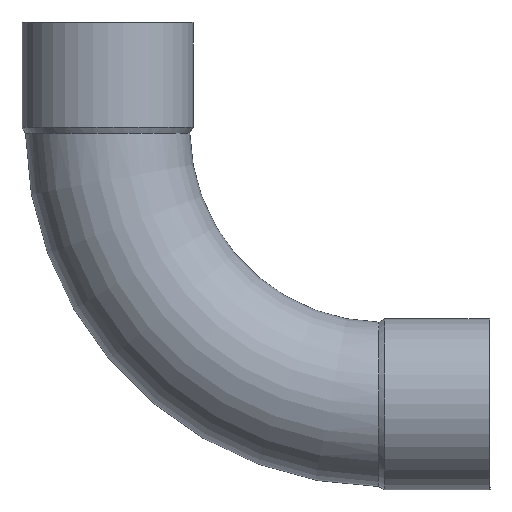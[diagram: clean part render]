
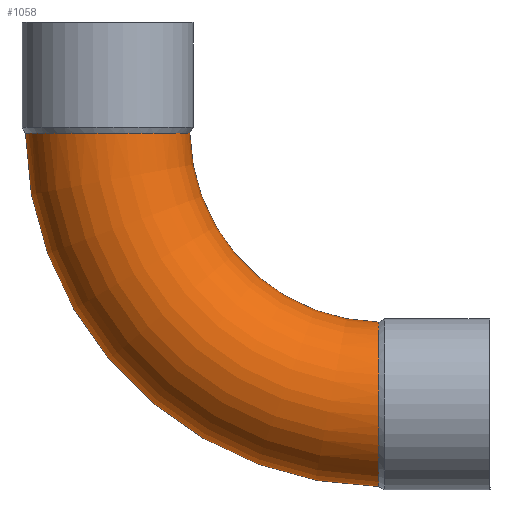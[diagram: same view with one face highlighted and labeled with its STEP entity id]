
A CAD part, front view. The second image highlights one B-rep face of the part: STEP entity #1058.
In plain terms, the highlighted toroidal (fillet/blend) face has major radius 87 mm and minor radius 26 mm.
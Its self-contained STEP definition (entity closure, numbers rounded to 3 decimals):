
#49=CARTESIAN_POINT('',(-90.958,0.,-1.211));
#50=VERTEX_POINT('',#49);
#51=CARTESIAN_POINT('',(20.824,0.,-112.994));
#52=VERTEX_POINT('',#51);
#53=CARTESIAN_POINT('',(22.035,0.,0.0));
#54=DIRECTION('',(0.0,-1.0,0.0));
#55=DIRECTION('',(0.0,0.0,-1.0));
#56=AXIS2_PLACEMENT_3D('',#53,#54,#55);
#57=CIRCLE('',#56,113.);
#58=EDGE_CURVE('',#50,#52,#57,.T.);
#60=CARTESIAN_POINT('',(-38.954,0.,-1.18));
#61=VERTEX_POINT('',#60);
#85=CARTESIAN_POINT('',(20.855,0.,-60.989));
#86=VERTEX_POINT('',#85);
#87=CARTESIAN_POINT('',(22.035,0.,0.0));
#88=DIRECTION('',(0.0,1.0,0.0));
#89=DIRECTION('',(0.0,0.0,-1.0));
#90=AXIS2_PLACEMENT_3D('',#87,#88,#89);
#91=CIRCLE('',#90,61.);
#92=EDGE_CURVE('',#86,#61,#91,.T.);
#224=CARTESIAN_POINT('',(-38.954,0.,-1.18));
#225=CARTESIAN_POINT('',(-38.954,-0.227,-1.18));
#226=CARTESIAN_POINT('',(-38.956,-0.454,-1.18));
#227=CARTESIAN_POINT('',(-39.051,-4.066,-1.18));
#228=CARTESIAN_POINT('',(-39.8,-7.4,-1.181));
#229=CARTESIAN_POINT('',(-42.534,-13.595,-1.184));
#230=CARTESIAN_POINT('',(-44.494,-16.396,-1.186));
#231=CARTESIAN_POINT('',(-49.376,-21.089,-1.19));
#232=CARTESIAN_POINT('',(-52.252,-22.937,-1.192));
#233=CARTESIAN_POINT('',(-58.55,-25.425,-1.196));
#234=CARTESIAN_POINT('',(-61.913,-26.042,-1.198));
#235=CARTESIAN_POINT('',(-68.684,-25.953,-1.202));
#236=CARTESIAN_POINT('',(-72.029,-25.248,-1.204));
#237=CARTESIAN_POINT('',(-78.259,-22.595,-1.206));
#238=CARTESIAN_POINT('',(-81.085,-20.673,-1.208));
#239=CARTESIAN_POINT('',(-85.842,-15.853,-1.209));
#240=CARTESIAN_POINT('',(-87.727,-13.002,-1.21));
#241=CARTESIAN_POINT('',(-90.297,-6.738,-1.211));
#242=CARTESIAN_POINT('',(-90.958,-3.385,-1.211));
#243=CARTESIAN_POINT('',(-90.958,0.,-1.211));
#244=B_SPLINE_CURVE_WITH_KNOTS('',3,(#224,#225,#226,#227,#228,#229,#230,#231,#232,#233,#234,#235,#236,#237,#238,#239,#240,#241,#242,#243),.UNSPECIFIED.,.F.,.U.,(4,2,2,2,2,2,2,2,2,4),(-8.194,-8.126,-7.11,-6.094,-5.079,-4.063,-3.047,-2.031,-1.016,0.0),.UNSPECIFIED.);
#245=EDGE_CURVE('',#61,#50,#244,.T.);
#1025=CARTESIAN_POINT('',(22.035,0.,0.0));
#1026=DIRECTION('',(0.0,-1.0,0.0));
#1027=DIRECTION('',(0.0,0.0,-1.0));
#1028=AXIS2_PLACEMENT_3D('',#1025,#1026,#1027);
#1029=TOROIDAL_SURFACE('',#1028,87.,26.0);
#1030=ORIENTED_EDGE('',*,*,#58,.T.);
#1031=CARTESIAN_POINT('',(20.824,0.,-112.994));
#1032=CARTESIAN_POINT('',(20.824,-1.917,-112.994));
#1033=CARTESIAN_POINT('',(20.824,-3.828,-112.782));
#1034=CARTESIAN_POINT('',(20.824,-7.568,-111.941));
#1035=CARTESIAN_POINT('',(20.824,-9.386,-111.316));
#1036=CARTESIAN_POINT('',(20.825,-14.179,-109.048));
#1037=CARTESIAN_POINT('',(20.826,-16.928,-107.016));
#1038=CARTESIAN_POINT('',(20.828,-21.491,-102.013));
#1039=CARTESIAN_POINT('',(20.829,-23.262,-99.09));
#1040=CARTESIAN_POINT('',(20.832,-25.584,-92.728));
#1041=CARTESIAN_POINT('',(20.834,-26.113,-89.351));
#1042=CARTESIAN_POINT('',(20.838,-25.846,-82.584));
#1043=CARTESIAN_POINT('',(20.84,-25.053,-79.259));
#1044=CARTESIAN_POINT('',(20.844,-22.238,-73.1));
#1045=CARTESIAN_POINT('',(20.846,-20.242,-70.325));
#1046=CARTESIAN_POINT('',(20.85,-15.299,-65.696));
#1047=CARTESIAN_POINT('',(20.852,-12.4,-63.887));
#1048=CARTESIAN_POINT('',(20.854,-6.284,-61.563));
#1049=CARTESIAN_POINT('',(20.855,-3.154,-60.989));
#1050=CARTESIAN_POINT('',(20.855,0.,-60.989));
#1051=B_SPLINE_CURVE_WITH_KNOTS('',3,(#1031,#1032,#1033,#1034,#1035,#1036,#1037,#1038,#1039,#1040,#1041,#1042,#1043,#1044,#1045,#1046,#1047,#1048,#1049,#1050),.UNSPECIFIED.,.F.,.U.,(4,2,2,2,2,2,2,2,2,4),(-16.386,-15.811,-15.236,-14.22,-13.204,-12.189,-11.173,-10.157,-9.141,-8.194),.UNSPECIFIED.);
#1052=EDGE_CURVE('',#52,#86,#1051,.T.);
#1053=ORIENTED_EDGE('',*,*,#1052,.T.);
#1054=ORIENTED_EDGE('',*,*,#92,.T.);
#1055=ORIENTED_EDGE('',*,*,#245,.T.);
#1056=EDGE_LOOP('',(#1030,#1053,#1054,#1055));
#1057=FACE_OUTER_BOUND('',#1056,.T.);
#1058=ADVANCED_FACE('',(#1057),#1029,.T.);
